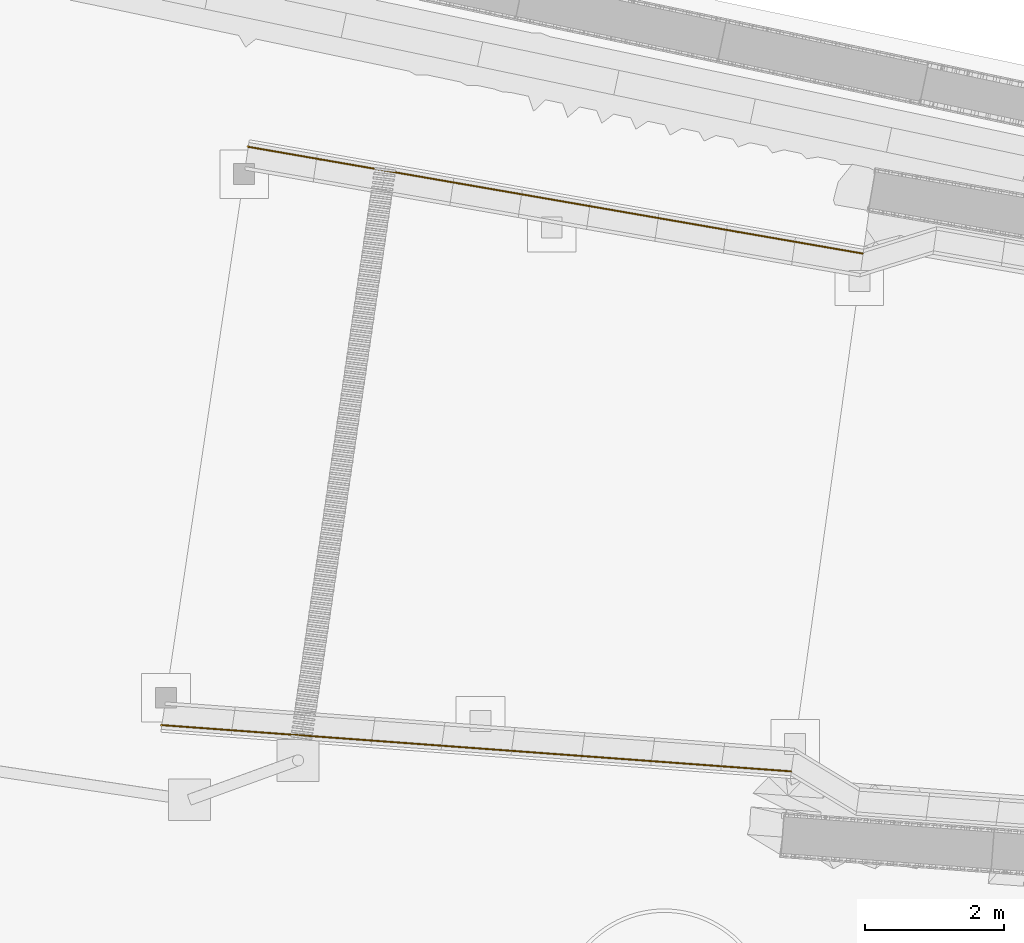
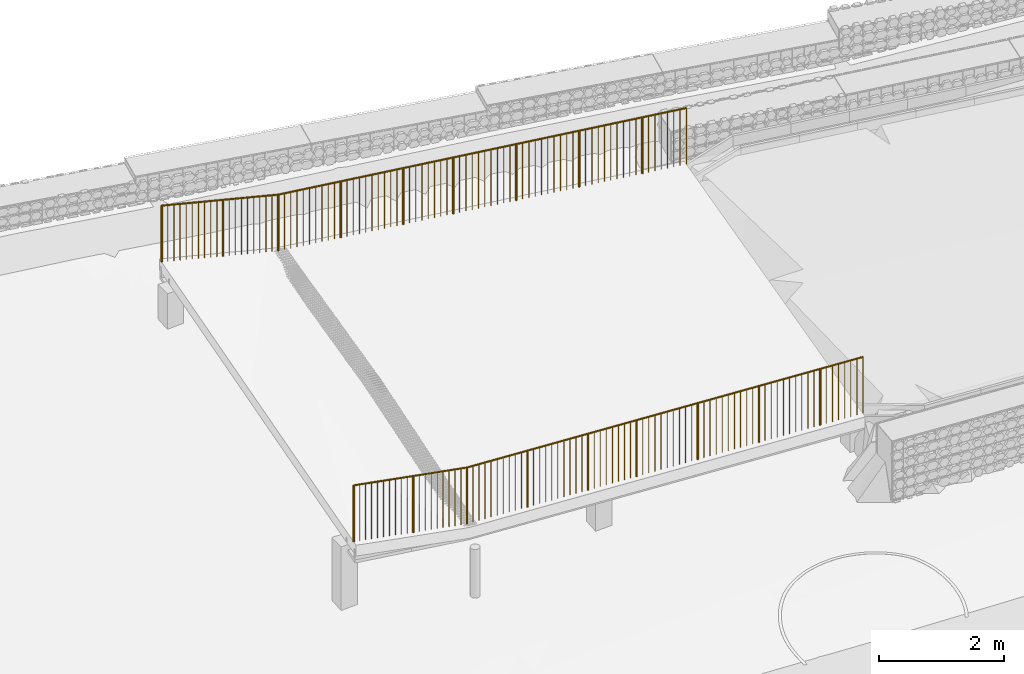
# Not in any storey, part 9 of 45: 6 railings, 6 elements without a shape of their own.
"""IFC4 model written with IfcOpenShell, lengths in metres."""

from ifc_helpers import new_model, si_unit, direction, frame, origin_with_axes, place, context, subcontext, project, spatial, circle, extrude, material, element, aggregate, save


model = new_model("IFC4")

# Units and contexts
model_context = context("Model", 3, precision=1e-05, world=origin_with_axes(), true_north=direction((0.0, 1.0)))
body_context = subcontext(model_context, "Body", "Model", "MODEL_VIEW")
ifc_project = project(units=[si_unit("VOLUMEUNIT", "CUBIC_METRE"), si_unit("LENGTHUNIT", "METRE"), si_unit("AREAUNIT", "SQUARE_METRE")], contexts=[model_context])

# Site
site_placement = place(None, origin_with_axes())
site = spatial("IfcSite", under=ifc_project, at=site_placement, Name="Lares · Rua das Mercês · artigo 4771")

# Assembly, railing
assembly_1_placement = place(site_placement, frame((0.0, 0.0, 0.0), z_axis=(0.0, 0.0, 1.0), x_axis=(1.0, -1.03767253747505e-17, 0.0)))
assembly_1 = element("IfcElementAssembly", 1, at=assembly_1_placement, inside=site, Name="Acesso · guarda lateral do troço suspenso", ObjectType="Acesso · guarda lateral do troço suspenso", PredefinedType="USERDEFINED")
ifc_material = material(Name="Aço pintado / Stahl lackiert", Category="steel")
railing_1_placement = place(assembly_1_placement, frame((0.0880535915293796, 0.593503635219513, 0.0), z_axis=(0.0, 0.0, 1.0), x_axis=(1.0, 1.03767253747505e-17, 0.0)))
railing_1 = element("IfcRailing", 2, at=railing_1_placement, material=ifc_material, Name="Acesso · guarda lateral", PredefinedType="GUARDRAIL", context=body_context, shape_type="SweptSolid", body=[
    extrude(circle(Radius=0.015), frame((46.5631904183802, 2.70786079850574, 16.86), z_axis=(0.988790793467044, -0.0727293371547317, -0.130396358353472), x_axis=(-0.073355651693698, -0.997305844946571, -1.79604141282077e-18)), (0.0, 0.0, 1.0), 2.03246607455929),
    extrude(circle(Radius=0.0175), frame((46.5631904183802, 2.70786079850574, 15.76), z_axis=(0.0, 0.0, 1.0), x_axis=(1.0, 0.0, 0.0)), (0.0, 0.0, 1.0), 1.1),
    extrude(circle(Radius=0.006), frame((46.6689632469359, 2.70008080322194, 15.7460512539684), z_axis=(0.0, 0.0, 1.0), x_axis=(1.0, 0.0, 0.0)), (0.0, 0.0, 1.0), 1.1),
    extrude(circle(Radius=0.006), frame((46.7747360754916, 2.69230080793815, 15.7321025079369), z_axis=(0.0, 0.0, 1.0), x_axis=(1.0, 0.0, 0.0)), (0.0, 0.0, 1.0), 1.1),
    extrude(circle(Radius=0.006), frame((46.8805089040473, 2.68452081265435, 15.7181537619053), z_axis=(0.0, 0.0, 1.0), x_axis=(1.0, 0.0, 0.0)), (0.0, 0.0, 1.0), 1.1),
    extrude(circle(Radius=0.006), frame((46.986281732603, 2.67674081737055, 15.7042050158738), z_axis=(0.0, 0.0, 1.0), x_axis=(1.0, 0.0, 0.0)), (0.0, 0.0, 1.0), 1.1),
    extrude(circle(Radius=0.006), frame((47.0920545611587, 2.66896082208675, 15.6902562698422), z_axis=(0.0, 0.0, 1.0), x_axis=(1.0, 0.0, 0.0)), (0.0, 0.0, 1.0), 1.1),
    extrude(circle(Radius=0.006), frame((47.1978273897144, 2.66118082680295, 15.6763075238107), z_axis=(0.0, 0.0, 1.0), x_axis=(1.0, 0.0, 0.0)), (0.0, 0.0, 1.0), 1.1),
    extrude(circle(Radius=0.006), frame((47.3036002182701, 2.65340083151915, 15.6623587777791), z_axis=(0.0, 0.0, 1.0), x_axis=(1.0, 0.0, 0.0)), (0.0, 0.0, 1.0), 1.1),
    extrude(circle(Radius=0.006), frame((47.4093730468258, 2.64562083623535, 15.6484100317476), z_axis=(0.0, 0.0, 1.0), x_axis=(1.0, 0.0, 0.0)), (0.0, 0.0, 1.0), 1.1),
    extrude(circle(Radius=0.006), frame((47.5151458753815, 2.63784084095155, 15.634461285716), z_axis=(0.0, 0.0, 1.0), x_axis=(1.0, 0.0, 0.0)), (0.0, 0.0, 1.0), 1.1),
    extrude(circle(Radius=0.0175), frame((47.6209187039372, 2.63006084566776, 15.6205125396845), z_axis=(0.0, 0.0, 1.0), x_axis=(1.0, 0.0, 0.0)), (0.0, 0.0, 1.0), 1.1),
    extrude(circle(Radius=0.006), frame((47.7266915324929, 2.62228085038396, 15.6065637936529), z_axis=(0.0, 0.0, 1.0), x_axis=(1.0, 0.0, 0.0)), (0.0, 0.0, 1.0), 1.1),
    extrude(circle(Radius=0.006), frame((47.8324643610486, 2.61450085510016, 15.5926150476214), z_axis=(0.0, 0.0, 1.0), x_axis=(1.0, 0.0, 0.0)), (0.0, 0.0, 1.0), 1.1),
    extrude(circle(Radius=0.006), frame((47.9382371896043, 2.60672085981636, 15.5786663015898), z_axis=(0.0, 0.0, 1.0), x_axis=(1.0, 0.0, 0.0)), (0.0, 0.0, 1.0), 1.1),
    extrude(circle(Radius=0.006), frame((48.04401001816, 2.59894086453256, 15.5647175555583), z_axis=(0.0, 0.0, 1.0), x_axis=(1.0, 0.0, 0.0)), (0.0, 0.0, 1.0), 1.1),
    extrude(circle(Radius=0.006), frame((48.1497828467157, 2.59116086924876, 15.5507688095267), z_axis=(0.0, 0.0, 1.0), x_axis=(1.0, 0.0, 0.0)), (0.0, 0.0, 1.0), 1.1),
    extrude(circle(Radius=0.006), frame((48.2555556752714, 2.58338087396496, 15.5368200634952), z_axis=(0.0, 0.0, 1.0), x_axis=(1.0, 0.0, 0.0)), (0.0, 0.0, 1.0), 1.1),
    extrude(circle(Radius=0.006), frame((48.3613285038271, 2.57560087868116, 15.5228713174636), z_axis=(0.0, 0.0, 1.0), x_axis=(1.0, 0.0, 0.0)), (0.0, 0.0, 1.0), 1.1),
    extrude(circle(Radius=0.006), frame((48.4671013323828, 2.56782088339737, 15.508922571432), z_axis=(0.0, 0.0, 1.0), x_axis=(1.0, 0.0, 0.0)), (0.0, 0.0, 1.0), 1.1),
    extrude(circle(Radius=0.006), frame((48.5728741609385, 2.56004088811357, 15.4949738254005), z_axis=(0.0, 0.0, 1.0), x_axis=(1.0, 0.0, 0.0)), (0.0, 0.0, 1.0), 1.1),
])
aggregate(assembly_1, [railing_1])

assembly_2_placement = place(site_placement, frame((0.0, 0.0, 0.0), z_axis=(0.0, 0.0, 1.0), x_axis=(1.0, -1.03767253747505e-17, 0.0)))
assembly_2 = element("IfcElementAssembly", 3, at=assembly_2_placement, inside=site, Name="Acesso · guarda lateral do troço suspenso", ObjectType="Acesso · guarda lateral do troço suspenso", PredefinedType="USERDEFINED")
railing_2_placement = place(assembly_2_placement, frame((0.0867439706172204, 0.593696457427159, 0.0), z_axis=(0.0, 0.0, 1.0), x_axis=(1.0, 1.03767253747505e-17, 0.0)))
railing_2 = element("IfcRailing", 4, at=railing_2_placement, material=ifc_material, Name="Acesso · guarda lateral", PredefinedType="GUARDRAIL", context=body_context, shape_type="SweptSolid", body=[
    extrude(circle(Radius=0.015), frame((48.5728741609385, 2.56004088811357, 16.5949738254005), z_axis=(0.997303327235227, -0.0733562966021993, 0.0022197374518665), x_axis=(-0.0733564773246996, -0.997305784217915, 0.0)), (0.0, 0.0, 1.0), 3.02277533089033),
    extrude(circle(Radius=0.0175), frame((48.5728741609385, 2.56004088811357, 15.4949738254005), z_axis=(0.0, 0.0, 1.0), x_axis=(1.0, 0.0, 0.0)), (0.0, 0.0, 1.0), 1.1),
    extrude(circle(Radius=0.006), frame((48.680539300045, 2.55212161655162, 15.495213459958), z_axis=(0.0, 0.0, 1.0), x_axis=(1.0, 0.0, 0.0)), (0.0, 0.0, 1.0), 1.1),
    extrude(circle(Radius=0.006), frame((48.7882044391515, 2.54420234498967, 15.4954530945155), z_axis=(0.0, 0.0, 1.0), x_axis=(1.0, 0.0, 0.0)), (0.0, 0.0, 1.0), 1.1),
    extrude(circle(Radius=0.006), frame((48.895869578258, 2.53628307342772, 15.4956927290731), z_axis=(0.0, 0.0, 1.0), x_axis=(1.0, 0.0, 0.0)), (0.0, 0.0, 1.0), 1.1),
    extrude(circle(Radius=0.006), frame((49.0035347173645, 2.52836380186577, 15.4959323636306), z_axis=(0.0, 0.0, 1.0), x_axis=(1.0, 0.0, 0.0)), (0.0, 0.0, 1.0), 1.1),
    extrude(circle(Radius=0.006), frame((49.1111998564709, 2.52044453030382, 15.4961719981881), z_axis=(0.0, 0.0, 1.0), x_axis=(1.0, 0.0, 0.0)), (0.0, 0.0, 1.0), 1.1),
    extrude(circle(Radius=0.006), frame((49.2188649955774, 2.51252525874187, 15.4964116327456), z_axis=(0.0, 0.0, 1.0), x_axis=(1.0, 0.0, 0.0)), (0.0, 0.0, 1.0), 1.1),
    extrude(circle(Radius=0.006), frame((49.3265301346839, 2.50460598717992, 15.4966512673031), z_axis=(0.0, 0.0, 1.0), x_axis=(1.0, 0.0, 0.0)), (0.0, 0.0, 1.0), 1.1),
    extrude(circle(Radius=0.006), frame((49.4341952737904, 2.49668671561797, 15.4968909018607), z_axis=(0.0, 0.0, 1.0), x_axis=(1.0, 0.0, 0.0)), (0.0, 0.0, 1.0), 1.1),
    extrude(circle(Radius=0.006), frame((49.5418604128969, 2.48876744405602, 15.4971305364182), z_axis=(0.0, 0.0, 1.0), x_axis=(1.0, 0.0, 0.0)), (0.0, 0.0, 1.0), 1.1),
    extrude(circle(Radius=0.0175), frame((49.6495255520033, 2.48084817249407, 15.4973701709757), z_axis=(0.0, 0.0, 1.0), x_axis=(1.0, 0.0, 0.0)), (0.0, 0.0, 1.0), 1.1),
    extrude(circle(Radius=0.006), frame((49.7571906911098, 2.47292890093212, 15.4976098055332), z_axis=(0.0, 0.0, 1.0), x_axis=(1.0, 0.0, 0.0)), (0.0, 0.0, 1.0), 1.1),
    extrude(circle(Radius=0.006), frame((49.8648558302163, 2.46500962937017, 15.4978494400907), z_axis=(0.0, 0.0, 1.0), x_axis=(1.0, 0.0, 0.0)), (0.0, 0.0, 1.0), 1.1),
    extrude(circle(Radius=0.006), frame((49.9725209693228, 2.45709035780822, 15.4980890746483), z_axis=(0.0, 0.0, 1.0), x_axis=(1.0, 0.0, 0.0)), (0.0, 0.0, 1.0), 1.1),
    extrude(circle(Radius=0.006), frame((50.0801861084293, 2.44917108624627, 15.4983287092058), z_axis=(0.0, 0.0, 1.0), x_axis=(1.0, 0.0, 0.0)), (0.0, 0.0, 1.0), 1.1),
    extrude(circle(Radius=0.006), frame((50.1878512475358, 2.44125181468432, 15.4985683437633), z_axis=(0.0, 0.0, 1.0), x_axis=(1.0, 0.0, 0.0)), (0.0, 0.0, 1.0), 1.1),
    extrude(circle(Radius=0.006), frame((50.2955163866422, 2.43333254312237, 15.4988079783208), z_axis=(0.0, 0.0, 1.0), x_axis=(1.0, 0.0, 0.0)), (0.0, 0.0, 1.0), 1.1),
    extrude(circle(Radius=0.006), frame((50.4031815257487, 2.42541327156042, 15.4990476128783), z_axis=(0.0, 0.0, 1.0), x_axis=(1.0, 0.0, 0.0)), (0.0, 0.0, 1.0), 1.1),
    extrude(circle(Radius=0.006), frame((50.5108466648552, 2.41749399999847, 15.4992872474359), z_axis=(0.0, 0.0, 1.0), x_axis=(1.0, 0.0, 0.0)), (0.0, 0.0, 1.0), 1.1),
    extrude(circle(Radius=0.006), frame((50.6185118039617, 2.40957472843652, 15.4995268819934), z_axis=(0.0, 0.0, 1.0), x_axis=(1.0, 0.0, 0.0)), (0.0, 0.0, 1.0), 1.1),
    extrude(circle(Radius=0.0175), frame((50.7261769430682, 2.40165545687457, 15.4997665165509), z_axis=(0.0, 0.0, 1.0), x_axis=(1.0, 0.0, 0.0)), (0.0, 0.0, 1.0), 1.1),
    extrude(circle(Radius=0.006), frame((50.8338420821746, 2.39373618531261, 15.5000061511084), z_axis=(0.0, 0.0, 1.0), x_axis=(1.0, 0.0, 0.0)), (0.0, 0.0, 1.0), 1.1),
    extrude(circle(Radius=0.006), frame((50.9415072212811, 2.38581691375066, 15.5002457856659), z_axis=(0.0, 0.0, 1.0), x_axis=(1.0, 0.0, 0.0)), (0.0, 0.0, 1.0), 1.1),
    extrude(circle(Radius=0.006), frame((51.0491723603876, 2.37789764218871, 15.5004854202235), z_axis=(0.0, 0.0, 1.0), x_axis=(1.0, 0.0, 0.0)), (0.0, 0.0, 1.0), 1.1),
    extrude(circle(Radius=0.006), frame((51.1568374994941, 2.36997837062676, 15.500725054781), z_axis=(0.0, 0.0, 1.0), x_axis=(1.0, 0.0, 0.0)), (0.0, 0.0, 1.0), 1.1),
    extrude(circle(Radius=0.006), frame((51.2645026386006, 2.36205909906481, 15.5009646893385), z_axis=(0.0, 0.0, 1.0), x_axis=(1.0, 0.0, 0.0)), (0.0, 0.0, 1.0), 1.1),
    extrude(circle(Radius=0.006), frame((51.372167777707, 2.35413982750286, 15.501204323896), z_axis=(0.0, 0.0, 1.0), x_axis=(1.0, 0.0, 0.0)), (0.0, 0.0, 1.0), 1.1),
    extrude(circle(Radius=0.006), frame((51.4798329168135, 2.34622055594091, 15.5014439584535), z_axis=(0.0, 0.0, 1.0), x_axis=(1.0, 0.0, 0.0)), (0.0, 0.0, 1.0), 1.1),
    extrude(circle(Radius=0.006), frame((51.58749805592, 2.33830128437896, 15.501683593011), z_axis=(0.0, 0.0, 1.0), x_axis=(1.0, 0.0, 0.0)), (0.0, 0.0, 1.0), 1.1),
])
aggregate(assembly_2, [railing_2])

assembly_3_placement = place(site_placement, frame((0.0, 0.0, 0.0), z_axis=(0.0, 0.0, 1.0), x_axis=(1.0, -1.03767253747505e-17, 0.0)))
assembly_3 = element("IfcElementAssembly", 5, at=assembly_3_placement, inside=site, Name="Acesso · guarda lateral do troço suspenso", ObjectType="Acesso · guarda lateral do troço suspenso", PredefinedType="USERDEFINED")
railing_3_placement = place(assembly_3_placement, frame((0.0846573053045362, 0.593997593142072, 0.0), z_axis=(0.0, 0.0, 1.0), x_axis=(1.0, 1.03767253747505e-17, 0.0)))
railing_3 = element("IfcRailing", 6, at=railing_3_placement, material=ifc_material, Name="Acesso · guarda lateral", PredefinedType="GUARDRAIL", context=body_context, shape_type="SweptSolid", body=[
    extrude(circle(Radius=0.015), frame((51.58749805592, 2.33830128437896, 16.601683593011), z_axis=(0.997303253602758, -0.0733573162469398, 0.00221912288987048), x_axis=(-0.0733574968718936, -0.997305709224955, -3.05629944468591e-20)), (0.0, 0.0, 1.0), 4.03057265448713),
    extrude(circle(Radius=0.0175), frame((51.58749805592, 2.33830128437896, 15.501683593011), z_axis=(0.0, 0.0, 1.0), x_axis=(1.0, 0.0, 0.0)), (0.0, 0.0, 1.0), 1.1),
    extrude(circle(Radius=0.006), frame((51.6961386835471, 2.33031014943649, 15.5019253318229), z_axis=(0.0, 0.0, 1.0), x_axis=(1.0, 0.0, 0.0)), (0.0, 0.0, 1.0), 1.1),
    extrude(circle(Radius=0.006), frame((51.8047793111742, 2.32231901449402, 15.5021670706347), z_axis=(0.0, 0.0, 1.0), x_axis=(1.0, 0.0, 0.0)), (0.0, 0.0, 1.0), 1.1),
    extrude(circle(Radius=0.006), frame((51.9134199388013, 2.31432787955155, 15.5024088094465), z_axis=(0.0, 0.0, 1.0), x_axis=(1.0, 0.0, 0.0)), (0.0, 0.0, 1.0), 1.1),
    extrude(circle(Radius=0.006), frame((52.0220605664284, 2.30633674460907, 15.5026505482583), z_axis=(0.0, 0.0, 1.0), x_axis=(1.0, 0.0, 0.0)), (0.0, 0.0, 1.0), 1.1),
    extrude(circle(Radius=0.006), frame((52.1307011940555, 2.2983456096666, 15.5028922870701), z_axis=(0.0, 0.0, 1.0), x_axis=(1.0, 0.0, 0.0)), (0.0, 0.0, 1.0), 1.1),
    extrude(circle(Radius=0.006), frame((52.2393418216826, 2.29035447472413, 15.5031340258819), z_axis=(0.0, 0.0, 1.0), x_axis=(1.0, 0.0, 0.0)), (0.0, 0.0, 1.0), 1.1),
    extrude(circle(Radius=0.006), frame((52.3479824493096, 2.28236333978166, 15.5033757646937), z_axis=(0.0, 0.0, 1.0), x_axis=(1.0, 0.0, 0.0)), (0.0, 0.0, 1.0), 1.1),
    extrude(circle(Radius=0.006), frame((52.4566230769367, 2.27437220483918, 15.5036175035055), z_axis=(0.0, 0.0, 1.0), x_axis=(1.0, 0.0, 0.0)), (0.0, 0.0, 1.0), 1.1),
    extrude(circle(Radius=0.006), frame((52.5652637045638, 2.26638106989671, 15.5038592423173), z_axis=(0.0, 0.0, 1.0), x_axis=(1.0, 0.0, 0.0)), (0.0, 0.0, 1.0), 1.1),
    extrude(circle(Radius=0.0175), frame((52.6739043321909, 2.25838993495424, 15.5041009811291), z_axis=(0.0, 0.0, 1.0), x_axis=(1.0, 0.0, 0.0)), (0.0, 0.0, 1.0), 1.1),
    extrude(circle(Radius=0.006), frame((52.782544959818, 2.25039880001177, 15.5043427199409), z_axis=(0.0, 0.0, 1.0), x_axis=(1.0, 0.0, 0.0)), (0.0, 0.0, 1.0), 1.1),
    extrude(circle(Radius=0.006), frame((52.8911855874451, 2.2424076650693, 15.5045844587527), z_axis=(0.0, 0.0, 1.0), x_axis=(1.0, 0.0, 0.0)), (0.0, 0.0, 1.0), 1.1),
    extrude(circle(Radius=0.006), frame((52.9998262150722, 2.23441653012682, 15.5048261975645), z_axis=(0.0, 0.0, 1.0), x_axis=(1.0, 0.0, 0.0)), (0.0, 0.0, 1.0), 1.1),
    extrude(circle(Radius=0.006), frame((53.1084668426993, 2.22642539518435, 15.5050679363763), z_axis=(0.0, 0.0, 1.0), x_axis=(1.0, 0.0, 0.0)), (0.0, 0.0, 1.0), 1.1),
    extrude(circle(Radius=0.006), frame((53.2171074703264, 2.21843426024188, 15.5053096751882), z_axis=(0.0, 0.0, 1.0), x_axis=(1.0, 0.0, 0.0)), (0.0, 0.0, 1.0), 1.1),
    extrude(circle(Radius=0.006), frame((53.3257480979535, 2.21044312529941, 15.505551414), z_axis=(0.0, 0.0, 1.0), x_axis=(1.0, 0.0, 0.0)), (0.0, 0.0, 1.0), 1.1),
    extrude(circle(Radius=0.006), frame((53.4343887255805, 2.20245199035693, 15.5057931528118), z_axis=(0.0, 0.0, 1.0), x_axis=(1.0, 0.0, 0.0)), (0.0, 0.0, 1.0), 1.1),
    extrude(circle(Radius=0.006), frame((53.5430293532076, 2.19446085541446, 15.5060348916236), z_axis=(0.0, 0.0, 1.0), x_axis=(1.0, 0.0, 0.0)), (0.0, 0.0, 1.0), 1.1),
    extrude(circle(Radius=0.006), frame((53.6516699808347, 2.18646972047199, 15.5062766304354), z_axis=(0.0, 0.0, 1.0), x_axis=(1.0, 0.0, 0.0)), (0.0, 0.0, 1.0), 1.1),
    extrude(circle(Radius=0.0175), frame((53.7603106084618, 2.17847858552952, 15.5065183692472), z_axis=(0.0, 0.0, 1.0), x_axis=(1.0, 0.0, 0.0)), (0.0, 0.0, 1.0), 1.1),
    extrude(circle(Radius=0.006), frame((53.8689512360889, 2.17048745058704, 15.506760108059), z_axis=(0.0, 0.0, 1.0), x_axis=(1.0, 0.0, 0.0)), (0.0, 0.0, 1.0), 1.1),
    extrude(circle(Radius=0.006), frame((53.977591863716, 2.16249631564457, 15.5070018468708), z_axis=(0.0, 0.0, 1.0), x_axis=(1.0, 0.0, 0.0)), (0.0, 0.0, 1.0), 1.1),
    extrude(circle(Radius=0.006), frame((54.0862324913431, 2.1545051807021, 15.5072435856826), z_axis=(0.0, 0.0, 1.0), x_axis=(1.0, 0.0, 0.0)), (0.0, 0.0, 1.0), 1.1),
    extrude(circle(Radius=0.006), frame((54.1948731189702, 2.14651404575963, 15.5074853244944), z_axis=(0.0, 0.0, 1.0), x_axis=(1.0, 0.0, 0.0)), (0.0, 0.0, 1.0), 1.1),
    extrude(circle(Radius=0.006), frame((54.3035137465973, 2.13852291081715, 15.5077270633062), z_axis=(0.0, 0.0, 1.0), x_axis=(1.0, 0.0, 0.0)), (0.0, 0.0, 1.0), 1.1),
    extrude(circle(Radius=0.006), frame((54.4121543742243, 2.13053177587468, 15.507968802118), z_axis=(0.0, 0.0, 1.0), x_axis=(1.0, 0.0, 0.0)), (0.0, 0.0, 1.0), 1.1),
    extrude(circle(Radius=0.006), frame((54.5207950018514, 2.12254064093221, 15.5082105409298), z_axis=(0.0, 0.0, 1.0), x_axis=(1.0, 0.0, 0.0)), (0.0, 0.0, 1.0), 1.1),
    extrude(circle(Radius=0.006), frame((54.6294356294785, 2.11454950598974, 15.5084522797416), z_axis=(0.0, 0.0, 1.0), x_axis=(1.0, 0.0, 0.0)), (0.0, 0.0, 1.0), 1.1),
    extrude(circle(Radius=0.006), frame((54.7380762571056, 2.10655837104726, 15.5086940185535), z_axis=(0.0, 0.0, 1.0), x_axis=(1.0, 0.0, 0.0)), (0.0, 0.0, 1.0), 1.1),
    extrude(circle(Radius=0.0175), frame((54.8467168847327, 2.09856723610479, 15.5089357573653), z_axis=(0.0, 0.0, 1.0), x_axis=(1.0, 0.0, 0.0)), (0.0, 0.0, 1.0), 1.1),
    extrude(circle(Radius=0.006), frame((54.9553575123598, 2.09057610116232, 15.5091774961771), z_axis=(0.0, 0.0, 1.0), x_axis=(1.0, 0.0, 0.0)), (0.0, 0.0, 1.0), 1.1),
    extrude(circle(Radius=0.006), frame((55.0639981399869, 2.08258496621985, 15.5094192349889), z_axis=(0.0, 0.0, 1.0), x_axis=(1.0, 0.0, 0.0)), (0.0, 0.0, 1.0), 1.1),
    extrude(circle(Radius=0.006), frame((55.172638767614, 2.07459383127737, 15.5096609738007), z_axis=(0.0, 0.0, 1.0), x_axis=(1.0, 0.0, 0.0)), (0.0, 0.0, 1.0), 1.1),
    extrude(circle(Radius=0.006), frame((55.2812793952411, 2.0666026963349, 15.5099027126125), z_axis=(0.0, 0.0, 1.0), x_axis=(1.0, 0.0, 0.0)), (0.0, 0.0, 1.0), 1.1),
    extrude(circle(Radius=0.006), frame((55.3899200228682, 2.05861156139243, 15.5101444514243), z_axis=(0.0, 0.0, 1.0), x_axis=(1.0, 0.0, 0.0)), (0.0, 0.0, 1.0), 1.1),
    extrude(circle(Radius=0.006), frame((55.4985606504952, 2.05062042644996, 15.5103861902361), z_axis=(0.0, 0.0, 1.0), x_axis=(1.0, 0.0, 0.0)), (0.0, 0.0, 1.0), 1.1),
    extrude(circle(Radius=0.006), frame((55.6072012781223, 2.04262929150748, 15.5106279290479), z_axis=(0.0, 0.0, 1.0), x_axis=(1.0, 0.0, 0.0)), (0.0, 0.0, 1.0), 1.1),
])
aggregate(assembly_3, [railing_3])

assembly_4_placement = place(site_placement, frame((0.0, 0.0, 0.0), z_axis=(0.0, 0.0, 1.0), x_axis=(1.0, -1.03767253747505e-17, 0.0)))
assembly_4 = element("IfcElementAssembly", 7, at=assembly_4_placement, inside=site, Name="Acesso · guarda lateral do troço suspenso", ObjectType="Acesso · guarda lateral do troço suspenso", PredefinedType="USERDEFINED")
railing_4_placement = place(assembly_4_placement, frame((-0.0880535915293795, -0.593503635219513, 0.0), z_axis=(0.0, 0.0, 1.0), x_axis=(1.0, 1.03767253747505e-17, 0.0)))
railing_4 = element("IfcRailing", 8, at=railing_4_placement, material=ifc_material, Name="Acesso · guarda lateral", PredefinedType="GUARDRAIL", context=body_context, shape_type="SweptSolid", body=[
    extrude(circle(Radius=0.015), frame((47.9821607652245, 12.2024130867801, 16.86), z_axis=(0.976617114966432, -0.169667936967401, -0.132029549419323), x_axis=(-0.171166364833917, -0.985242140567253, -3.68342979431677e-18)), (0.0, 0.0, 1.0), 2.00732469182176),
    extrude(circle(Radius=0.0175), frame((47.9821607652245, 12.2024130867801, 15.76), z_axis=(0.0, 0.0, 1.0), x_axis=(1.0, 0.0, 0.0)), (0.0, 0.0, 1.0), 1.1),
    extrude(circle(Radius=0.006), frame((48.0853390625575, 12.1844878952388, 15.7460512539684), z_axis=(0.0, 0.0, 1.0), x_axis=(1.0, 0.0, 0.0)), (0.0, 0.0, 1.0), 1.1),
    extrude(circle(Radius=0.006), frame((48.1885173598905, 12.1665627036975, 15.7321025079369), z_axis=(0.0, 0.0, 1.0), x_axis=(1.0, 0.0, 0.0)), (0.0, 0.0, 1.0), 1.1),
    extrude(circle(Radius=0.006), frame((48.2916956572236, 12.1486375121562, 15.7181537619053), z_axis=(0.0, 0.0, 1.0), x_axis=(1.0, 0.0, 0.0)), (0.0, 0.0, 1.0), 1.1),
    extrude(circle(Radius=0.006), frame((48.3948739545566, 12.1307123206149, 15.7042050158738), z_axis=(0.0, 0.0, 1.0), x_axis=(1.0, 0.0, 0.0)), (0.0, 0.0, 1.0), 1.1),
    extrude(circle(Radius=0.006), frame((48.4980522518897, 12.1127871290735, 15.6902562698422), z_axis=(0.0, 0.0, 1.0), x_axis=(1.0, 0.0, 0.0)), (0.0, 0.0, 1.0), 1.1),
    extrude(circle(Radius=0.006), frame((48.6012305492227, 12.0948619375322, 15.6763075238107), z_axis=(0.0, 0.0, 1.0), x_axis=(1.0, 0.0, 0.0)), (0.0, 0.0, 1.0), 1.1),
    extrude(circle(Radius=0.006), frame((48.7044088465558, 12.0769367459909, 15.6623587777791), z_axis=(0.0, 0.0, 1.0), x_axis=(1.0, 0.0, 0.0)), (0.0, 0.0, 1.0), 1.1),
    extrude(circle(Radius=0.006), frame((48.8075871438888, 12.0590115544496, 15.6484100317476), z_axis=(0.0, 0.0, 1.0), x_axis=(1.0, 0.0, 0.0)), (0.0, 0.0, 1.0), 1.1),
    extrude(circle(Radius=0.006), frame((48.9107654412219, 12.0410863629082, 15.634461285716), z_axis=(0.0, 0.0, 1.0), x_axis=(1.0, 0.0, 0.0)), (0.0, 0.0, 1.0), 1.1),
    extrude(circle(Radius=0.0175), frame((49.0139437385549, 12.0231611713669, 15.6205125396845), z_axis=(0.0, 0.0, 1.0), x_axis=(1.0, 0.0, 0.0)), (0.0, 0.0, 1.0), 1.1),
    extrude(circle(Radius=0.006), frame((49.1171220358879, 12.0052359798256, 15.6065637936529), z_axis=(0.0, 0.0, 1.0), x_axis=(1.0, 0.0, 0.0)), (0.0, 0.0, 1.0), 1.1),
    extrude(circle(Radius=0.006), frame((49.220300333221, 11.9873107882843, 15.5926150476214), z_axis=(0.0, 0.0, 1.0), x_axis=(1.0, 0.0, 0.0)), (0.0, 0.0, 1.0), 1.1),
    extrude(circle(Radius=0.006), frame((49.323478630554, 11.969385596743, 15.5786663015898), z_axis=(0.0, 0.0, 1.0), x_axis=(1.0, 0.0, 0.0)), (0.0, 0.0, 1.0), 1.1),
    extrude(circle(Radius=0.006), frame((49.4266569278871, 11.9514604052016, 15.5647175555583), z_axis=(0.0, 0.0, 1.0), x_axis=(1.0, 0.0, 0.0)), (0.0, 0.0, 1.0), 1.1),
    extrude(circle(Radius=0.006), frame((49.5298352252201, 11.9335352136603, 15.5507688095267), z_axis=(0.0, 0.0, 1.0), x_axis=(1.0, 0.0, 0.0)), (0.0, 0.0, 1.0), 1.1),
    extrude(circle(Radius=0.006), frame((49.6330135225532, 11.915610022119, 15.5368200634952), z_axis=(0.0, 0.0, 1.0), x_axis=(1.0, 0.0, 0.0)), (0.0, 0.0, 1.0), 1.1),
    extrude(circle(Radius=0.006), frame((49.7361918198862, 11.8976848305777, 15.5228713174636), z_axis=(0.0, 0.0, 1.0), x_axis=(1.0, 0.0, 0.0)), (0.0, 0.0, 1.0), 1.1),
    extrude(circle(Radius=0.006), frame((49.8393701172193, 11.8797596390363, 15.508922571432), z_axis=(0.0, 0.0, 1.0), x_axis=(1.0, 0.0, 0.0)), (0.0, 0.0, 1.0), 1.1),
    extrude(circle(Radius=0.006), frame((49.9425484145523, 11.861834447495, 15.4949738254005), z_axis=(0.0, 0.0, 1.0), x_axis=(1.0, 0.0, 0.0)), (0.0, 0.0, 1.0), 1.1),
])
aggregate(assembly_4, [railing_4])

assembly_5_placement = place(site_placement, frame((0.0, 0.0, 0.0), z_axis=(0.0, 0.0, 1.0), x_axis=(1.0, -1.03767253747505e-17, 0.0)))
assembly_5 = element("IfcElementAssembly", 9, at=assembly_5_placement, inside=site, Name="Acesso · guarda lateral do troço suspenso", ObjectType="Acesso · guarda lateral do troço suspenso", PredefinedType="USERDEFINED")
railing_5_placement = place(assembly_5_placement, frame((-0.0867439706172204, -0.593696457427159, 0.0), z_axis=(0.0, 0.0, 1.0), x_axis=(1.0, 1.03767253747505e-17, 0.0)))
railing_5 = element("IfcRailing", 10, at=railing_5_placement, material=ifc_material, Name="Acesso · guarda lateral", PredefinedType="GUARDRAIL", context=body_context, shape_type="SweptSolid", body=[
    extrude(circle(Radius=0.015), frame((49.9425484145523, 11.861834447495, 16.5949738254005), z_axis=(0.985239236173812, -0.171168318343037, 0.00224817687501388), x_axis=(-0.171168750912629, -0.985241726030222, 0.0)), (0.0, 0.0, 1.0), 2.98453724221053),
    extrude(circle(Radius=0.0175), frame((49.9425484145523, 11.861834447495, 15.4949738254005), z_axis=(0.0, 0.0, 1.0), x_axis=(1.0, 0.0, 0.0)), (0.0, 0.0, 1.0), 1.1),
    extrude(circle(Radius=0.006), frame((50.0475656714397, 11.8435895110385, 15.495213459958), z_axis=(0.0, 0.0, 1.0), x_axis=(1.0, 0.0, 0.0)), (0.0, 0.0, 1.0), 1.1),
    extrude(circle(Radius=0.006), frame((50.1525829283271, 11.8253445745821, 15.4954530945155), z_axis=(0.0, 0.0, 1.0), x_axis=(1.0, 0.0, 0.0)), (0.0, 0.0, 1.0), 1.1),
    extrude(circle(Radius=0.006), frame((50.2576001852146, 11.8070996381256, 15.4956927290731), z_axis=(0.0, 0.0, 1.0), x_axis=(1.0, 0.0, 0.0)), (0.0, 0.0, 1.0), 1.1),
    extrude(circle(Radius=0.006), frame((50.362617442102, 11.7888547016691, 15.4959323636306), z_axis=(0.0, 0.0, 1.0), x_axis=(1.0, 0.0, 0.0)), (0.0, 0.0, 1.0), 1.1),
    extrude(circle(Radius=0.006), frame((50.4676346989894, 11.7706097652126, 15.4961719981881), z_axis=(0.0, 0.0, 1.0), x_axis=(1.0, 0.0, 0.0)), (0.0, 0.0, 1.0), 1.1),
    extrude(circle(Radius=0.006), frame((50.5726519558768, 11.7523648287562, 15.4964116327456), z_axis=(0.0, 0.0, 1.0), x_axis=(1.0, 0.0, 0.0)), (0.0, 0.0, 1.0), 1.1),
    extrude(circle(Radius=0.006), frame((50.6776692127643, 11.7341198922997, 15.4966512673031), z_axis=(0.0, 0.0, 1.0), x_axis=(1.0, 0.0, 0.0)), (0.0, 0.0, 1.0), 1.1),
    extrude(circle(Radius=0.006), frame((50.7826864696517, 11.7158749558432, 15.4968909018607), z_axis=(0.0, 0.0, 1.0), x_axis=(1.0, 0.0, 0.0)), (0.0, 0.0, 1.0), 1.1),
    extrude(circle(Radius=0.006), frame((50.8877037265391, 11.6976300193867, 15.4971305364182), z_axis=(0.0, 0.0, 1.0), x_axis=(1.0, 0.0, 0.0)), (0.0, 0.0, 1.0), 1.1),
    extrude(circle(Radius=0.0175), frame((50.9927209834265, 11.6793850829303, 15.4973701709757), z_axis=(0.0, 0.0, 1.0), x_axis=(1.0, 0.0, 0.0)), (0.0, 0.0, 1.0), 1.1),
    extrude(circle(Radius=0.006), frame((51.0977382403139, 11.6611401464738, 15.4976098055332), z_axis=(0.0, 0.0, 1.0), x_axis=(1.0, 0.0, 0.0)), (0.0, 0.0, 1.0), 1.1),
    extrude(circle(Radius=0.006), frame((51.2027554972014, 11.6428952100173, 15.4978494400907), z_axis=(0.0, 0.0, 1.0), x_axis=(1.0, 0.0, 0.0)), (0.0, 0.0, 1.0), 1.1),
    extrude(circle(Radius=0.006), frame((51.3077727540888, 11.6246502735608, 15.4980890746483), z_axis=(0.0, 0.0, 1.0), x_axis=(1.0, 0.0, 0.0)), (0.0, 0.0, 1.0), 1.1),
    extrude(circle(Radius=0.006), frame((51.4127900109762, 11.6064053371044, 15.4983287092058), z_axis=(0.0, 0.0, 1.0), x_axis=(1.0, 0.0, 0.0)), (0.0, 0.0, 1.0), 1.1),
    extrude(circle(Radius=0.006), frame((51.5178072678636, 11.5881604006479, 15.4985683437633), z_axis=(0.0, 0.0, 1.0), x_axis=(1.0, 0.0, 0.0)), (0.0, 0.0, 1.0), 1.1),
    extrude(circle(Radius=0.006), frame((51.622824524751, 11.5699154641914, 15.4988079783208), z_axis=(0.0, 0.0, 1.0), x_axis=(1.0, 0.0, 0.0)), (0.0, 0.0, 1.0), 1.1),
    extrude(circle(Radius=0.006), frame((51.7278417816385, 11.5516705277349, 15.4990476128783), z_axis=(0.0, 0.0, 1.0), x_axis=(1.0, 0.0, 0.0)), (0.0, 0.0, 1.0), 1.1),
    extrude(circle(Radius=0.006), frame((51.8328590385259, 11.5334255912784, 15.4992872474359), z_axis=(0.0, 0.0, 1.0), x_axis=(1.0, 0.0, 0.0)), (0.0, 0.0, 1.0), 1.1),
    extrude(circle(Radius=0.006), frame((51.9378762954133, 11.515180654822, 15.4995268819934), z_axis=(0.0, 0.0, 1.0), x_axis=(1.0, 0.0, 0.0)), (0.0, 0.0, 1.0), 1.1),
    extrude(circle(Radius=0.0175), frame((52.0428935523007, 11.4969357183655, 15.4997665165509), z_axis=(0.0, 0.0, 1.0), x_axis=(1.0, 0.0, 0.0)), (0.0, 0.0, 1.0), 1.1),
    extrude(circle(Radius=0.006), frame((52.1479108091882, 11.478690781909, 15.5000061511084), z_axis=(0.0, 0.0, 1.0), x_axis=(1.0, 0.0, 0.0)), (0.0, 0.0, 1.0), 1.1),
    extrude(circle(Radius=0.006), frame((52.2529280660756, 11.4604458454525, 15.5002457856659), z_axis=(0.0, 0.0, 1.0), x_axis=(1.0, 0.0, 0.0)), (0.0, 0.0, 1.0), 1.1),
    extrude(circle(Radius=0.006), frame((52.357945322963, 11.4422009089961, 15.5004854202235), z_axis=(0.0, 0.0, 1.0), x_axis=(1.0, 0.0, 0.0)), (0.0, 0.0, 1.0), 1.1),
    extrude(circle(Radius=0.006), frame((52.4629625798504, 11.4239559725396, 15.500725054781), z_axis=(0.0, 0.0, 1.0), x_axis=(1.0, 0.0, 0.0)), (0.0, 0.0, 1.0), 1.1),
    extrude(circle(Radius=0.006), frame((52.5679798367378, 11.4057110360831, 15.5009646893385), z_axis=(0.0, 0.0, 1.0), x_axis=(1.0, 0.0, 0.0)), (0.0, 0.0, 1.0), 1.1),
    extrude(circle(Radius=0.006), frame((52.6729970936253, 11.3874660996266, 15.501204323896), z_axis=(0.0, 0.0, 1.0), x_axis=(1.0, 0.0, 0.0)), (0.0, 0.0, 1.0), 1.1),
    extrude(circle(Radius=0.006), frame((52.7780143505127, 11.3692211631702, 15.5014439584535), z_axis=(0.0, 0.0, 1.0), x_axis=(1.0, 0.0, 0.0)), (0.0, 0.0, 1.0), 1.1),
    extrude(circle(Radius=0.006), frame((52.8830316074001, 11.3509762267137, 15.501683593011), z_axis=(0.0, 0.0, 1.0), x_axis=(1.0, 0.0, 0.0)), (0.0, 0.0, 1.0), 1.1),
])
aggregate(assembly_5, [railing_5])

assembly_6_placement = place(site_placement, frame((0.0, 0.0, 0.0), z_axis=(0.0, 0.0, 1.0), x_axis=(1.0, -1.03767253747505e-17, 0.0)))
assembly_6 = element("IfcElementAssembly", 11, at=assembly_6_placement, inside=site, Name="Acesso · guarda lateral do troço suspenso", ObjectType="Acesso · guarda lateral do troço suspenso", PredefinedType="USERDEFINED")
railing_6_placement = place(assembly_6_placement, frame((-0.0846573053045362, -0.593997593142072, 0.0), z_axis=(0.0, 0.0, 1.0), x_axis=(1.0, 1.03767253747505e-17, 0.0)))
railing_6 = element("IfcRailing", 12, at=railing_6_placement, material=ifc_material, Name="Acesso · guarda lateral", PredefinedType="GUARDRAIL", context=body_context, shape_type="SweptSolid", body=[
    extrude(circle(Radius=0.015), frame((52.8830316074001, 11.3509762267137, 16.601683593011), z_axis=(0.985238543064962, -0.171172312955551, 0.00224778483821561), x_axis=(-0.171172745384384, -0.985241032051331, -6.27151831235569e-20)), (0.0, 0.0, 1.0), 3.97917802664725),
    extrude(circle(Radius=0.0175), frame((52.8830316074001, 11.3509762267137, 15.501683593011), z_axis=(0.0, 0.0, 1.0), x_axis=(1.0, 0.0, 0.0)), (0.0, 0.0, 1.0), 1.1),
    extrude(circle(Radius=0.006), frame((52.9889894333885, 11.332567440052, 15.5019253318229), z_axis=(0.0, 0.0, 1.0), x_axis=(1.0, 0.0, 0.0)), (0.0, 0.0, 1.0), 1.1),
    extrude(circle(Radius=0.006), frame((53.0949472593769, 11.3141586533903, 15.5021670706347), z_axis=(0.0, 0.0, 1.0), x_axis=(1.0, 0.0, 0.0)), (0.0, 0.0, 1.0), 1.1),
    extrude(circle(Radius=0.006), frame((53.2009050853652, 11.2957498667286, 15.5024088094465), z_axis=(0.0, 0.0, 1.0), x_axis=(1.0, 0.0, 0.0)), (0.0, 0.0, 1.0), 1.1),
    extrude(circle(Radius=0.006), frame((53.3068629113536, 11.2773410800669, 15.5026505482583), z_axis=(0.0, 0.0, 1.0), x_axis=(1.0, 0.0, 0.0)), (0.0, 0.0, 1.0), 1.1),
    extrude(circle(Radius=0.006), frame((53.412820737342, 11.2589322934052, 15.5028922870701), z_axis=(0.0, 0.0, 1.0), x_axis=(1.0, 0.0, 0.0)), (0.0, 0.0, 1.0), 1.1),
    extrude(circle(Radius=0.006), frame((53.5187785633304, 11.2405235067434, 15.5031340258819), z_axis=(0.0, 0.0, 1.0), x_axis=(1.0, 0.0, 0.0)), (0.0, 0.0, 1.0), 1.1),
    extrude(circle(Radius=0.006), frame((53.6247363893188, 11.2221147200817, 15.5033757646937), z_axis=(0.0, 0.0, 1.0), x_axis=(1.0, 0.0, 0.0)), (0.0, 0.0, 1.0), 1.1),
    extrude(circle(Radius=0.006), frame((53.7306942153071, 11.20370593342, 15.5036175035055), z_axis=(0.0, 0.0, 1.0), x_axis=(1.0, 0.0, 0.0)), (0.0, 0.0, 1.0), 1.1),
    extrude(circle(Radius=0.006), frame((53.8366520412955, 11.1852971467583, 15.5038592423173), z_axis=(0.0, 0.0, 1.0), x_axis=(1.0, 0.0, 0.0)), (0.0, 0.0, 1.0), 1.1),
    extrude(circle(Radius=0.0175), frame((53.9426098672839, 11.1668883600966, 15.5041009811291), z_axis=(0.0, 0.0, 1.0), x_axis=(1.0, 0.0, 0.0)), (0.0, 0.0, 1.0), 1.1),
    extrude(circle(Radius=0.006), frame((54.0485676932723, 11.1484795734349, 15.5043427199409), z_axis=(0.0, 0.0, 1.0), x_axis=(1.0, 0.0, 0.0)), (0.0, 0.0, 1.0), 1.1),
    extrude(circle(Radius=0.006), frame((54.1545255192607, 11.1300707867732, 15.5045844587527), z_axis=(0.0, 0.0, 1.0), x_axis=(1.0, 0.0, 0.0)), (0.0, 0.0, 1.0), 1.1),
    extrude(circle(Radius=0.006), frame((54.260483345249, 11.1116620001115, 15.5048261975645), z_axis=(0.0, 0.0, 1.0), x_axis=(1.0, 0.0, 0.0)), (0.0, 0.0, 1.0), 1.1),
    extrude(circle(Radius=0.006), frame((54.3664411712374, 11.0932532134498, 15.5050679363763), z_axis=(0.0, 0.0, 1.0), x_axis=(1.0, 0.0, 0.0)), (0.0, 0.0, 1.0), 1.1),
    extrude(circle(Radius=0.006), frame((54.4723989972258, 11.0748444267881, 15.5053096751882), z_axis=(0.0, 0.0, 1.0), x_axis=(1.0, 0.0, 0.0)), (0.0, 0.0, 1.0), 1.1),
    extrude(circle(Radius=0.006), frame((54.5783568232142, 11.0564356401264, 15.505551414), z_axis=(0.0, 0.0, 1.0), x_axis=(1.0, 0.0, 0.0)), (0.0, 0.0, 1.0), 1.1),
    extrude(circle(Radius=0.006), frame((54.6843146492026, 11.0380268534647, 15.5057931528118), z_axis=(0.0, 0.0, 1.0), x_axis=(1.0, 0.0, 0.0)), (0.0, 0.0, 1.0), 1.1),
    extrude(circle(Radius=0.006), frame((54.7902724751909, 11.019618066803, 15.5060348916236), z_axis=(0.0, 0.0, 1.0), x_axis=(1.0, 0.0, 0.0)), (0.0, 0.0, 1.0), 1.1),
    extrude(circle(Radius=0.006), frame((54.8962303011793, 11.0012092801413, 15.5062766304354), z_axis=(0.0, 0.0, 1.0), x_axis=(1.0, 0.0, 0.0)), (0.0, 0.0, 1.0), 1.1),
    extrude(circle(Radius=0.0175), frame((55.0021881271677, 10.9828004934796, 15.5065183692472), z_axis=(0.0, 0.0, 1.0), x_axis=(1.0, 0.0, 0.0)), (0.0, 0.0, 1.0), 1.1),
    extrude(circle(Radius=0.006), frame((55.1081459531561, 10.9643917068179, 15.506760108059), z_axis=(0.0, 0.0, 1.0), x_axis=(1.0, 0.0, 0.0)), (0.0, 0.0, 1.0), 1.1),
    extrude(circle(Radius=0.006), frame((55.2141037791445, 10.9459829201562, 15.5070018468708), z_axis=(0.0, 0.0, 1.0), x_axis=(1.0, 0.0, 0.0)), (0.0, 0.0, 1.0), 1.1),
    extrude(circle(Radius=0.006), frame((55.3200616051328, 10.9275741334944, 15.5072435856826), z_axis=(0.0, 0.0, 1.0), x_axis=(1.0, 0.0, 0.0)), (0.0, 0.0, 1.0), 1.1),
    extrude(circle(Radius=0.006), frame((55.4260194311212, 10.9091653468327, 15.5074853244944), z_axis=(0.0, 0.0, 1.0), x_axis=(1.0, 0.0, 0.0)), (0.0, 0.0, 1.0), 1.1),
    extrude(circle(Radius=0.006), frame((55.5319772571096, 10.890756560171, 15.5077270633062), z_axis=(0.0, 0.0, 1.0), x_axis=(1.0, 0.0, 0.0)), (0.0, 0.0, 1.0), 1.1),
    extrude(circle(Radius=0.006), frame((55.637935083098, 10.8723477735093, 15.507968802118), z_axis=(0.0, 0.0, 1.0), x_axis=(1.0, 0.0, 0.0)), (0.0, 0.0, 1.0), 1.1),
    extrude(circle(Radius=0.006), frame((55.7438929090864, 10.8539389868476, 15.5082105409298), z_axis=(0.0, 0.0, 1.0), x_axis=(1.0, 0.0, 0.0)), (0.0, 0.0, 1.0), 1.1),
    extrude(circle(Radius=0.006), frame((55.8498507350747, 10.8355302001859, 15.5084522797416), z_axis=(0.0, 0.0, 1.0), x_axis=(1.0, 0.0, 0.0)), (0.0, 0.0, 1.0), 1.1),
    extrude(circle(Radius=0.006), frame((55.9558085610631, 10.8171214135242, 15.5086940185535), z_axis=(0.0, 0.0, 1.0), x_axis=(1.0, 0.0, 0.0)), (0.0, 0.0, 1.0), 1.1),
    extrude(circle(Radius=0.0175), frame((56.0617663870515, 10.7987126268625, 15.5089357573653), z_axis=(0.0, 0.0, 1.0), x_axis=(1.0, 0.0, 0.0)), (0.0, 0.0, 1.0), 1.1),
    extrude(circle(Radius=0.006), frame((56.1677242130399, 10.7803038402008, 15.5091774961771), z_axis=(0.0, 0.0, 1.0), x_axis=(1.0, 0.0, 0.0)), (0.0, 0.0, 1.0), 1.1),
    extrude(circle(Radius=0.006), frame((56.2736820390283, 10.7618950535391, 15.5094192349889), z_axis=(0.0, 0.0, 1.0), x_axis=(1.0, 0.0, 0.0)), (0.0, 0.0, 1.0), 1.1),
    extrude(circle(Radius=0.006), frame((56.3796398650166, 10.7434862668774, 15.5096609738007), z_axis=(0.0, 0.0, 1.0), x_axis=(1.0, 0.0, 0.0)), (0.0, 0.0, 1.0), 1.1),
    extrude(circle(Radius=0.006), frame((56.485597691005, 10.7250774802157, 15.5099027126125), z_axis=(0.0, 0.0, 1.0), x_axis=(1.0, 0.0, 0.0)), (0.0, 0.0, 1.0), 1.1),
    extrude(circle(Radius=0.006), frame((56.5915555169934, 10.706668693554, 15.5101444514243), z_axis=(0.0, 0.0, 1.0), x_axis=(1.0, 0.0, 0.0)), (0.0, 0.0, 1.0), 1.1),
    extrude(circle(Radius=0.006), frame((56.6975133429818, 10.6882599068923, 15.5103861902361), z_axis=(0.0, 0.0, 1.0), x_axis=(1.0, 0.0, 0.0)), (0.0, 0.0, 1.0), 1.1),
    extrude(circle(Radius=0.006), frame((56.8034711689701, 10.6698511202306, 15.5106279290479), z_axis=(0.0, 0.0, 1.0), x_axis=(1.0, 0.0, 0.0)), (0.0, 0.0, 1.0), 1.1),
])
aggregate(assembly_6, [railing_6])

save(model, "model.ifc")
